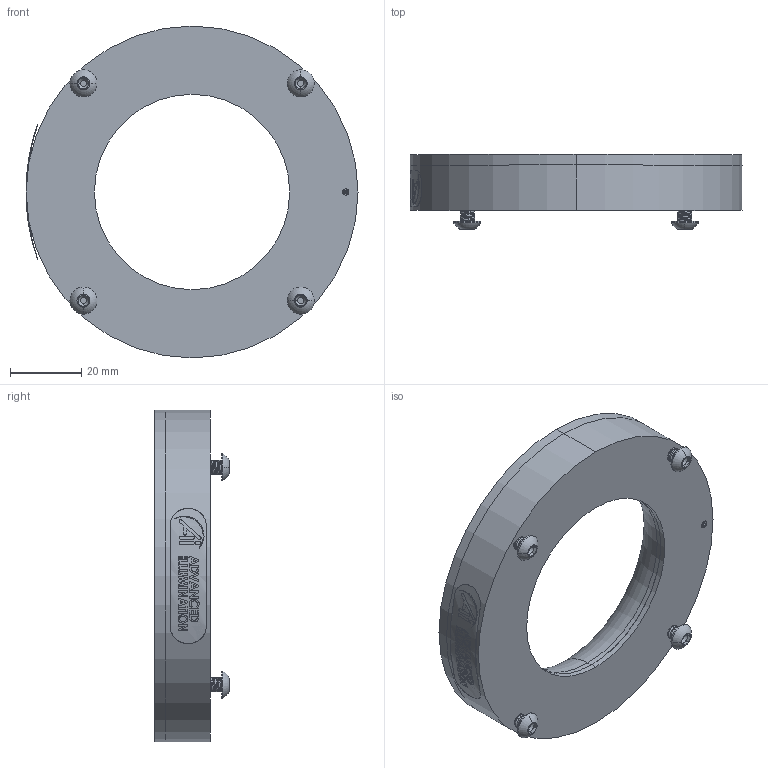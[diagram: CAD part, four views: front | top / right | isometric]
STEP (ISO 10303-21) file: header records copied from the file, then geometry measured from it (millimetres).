
FILE_DESCRIPTION (( 'STEP AP214' ), '1' );
FILE_NAME ('DF198-095.STEP', '2022-01-03T13:50:47', ( '' ), ( '' ), 'SwSTEP 2.0', 'SolidWorks 2018', '' );
FILE_SCHEMA (( 'AUTOMOTIVE_DESIGN' ));
Length unit declared in the file: inch
Products named in the file (7): 095711; 91375A075_91375A075; 097012_91253A078; 091052 DF198-115; DF198-095; 095708; BH-M4x8
Assembly tree (12 placements, depth 2):
  DF198-095
    095708
    91375A075_91375A075
    095711
    097012_91253A078  x4
    091052 DF198-115
    BH-M4x8  x4
Bounding box: 93.52 x 21.08 x 93.47 mm (x, y, z)
Volume: 46155.6 mm3; surface area: 31502.9 mm2
Topology: 12 solids, 12 shells, 843 faces, 2093 edges, 1312 vertices
Faces by surface type: cylinder 316, plane 259, cone 141, bspline 107, torus 20
Entity records: 30207 total; most frequent: CARTESIAN_POINT 14369, ORIENTED_EDGE 2596, DIRECTION 2076, EDGE_CURVE 1298, VERTEX_POINT 823, AXIS2_PLACEMENT_3D 813, EDGE_LOOP 595, ADVANCED_FACE 528
